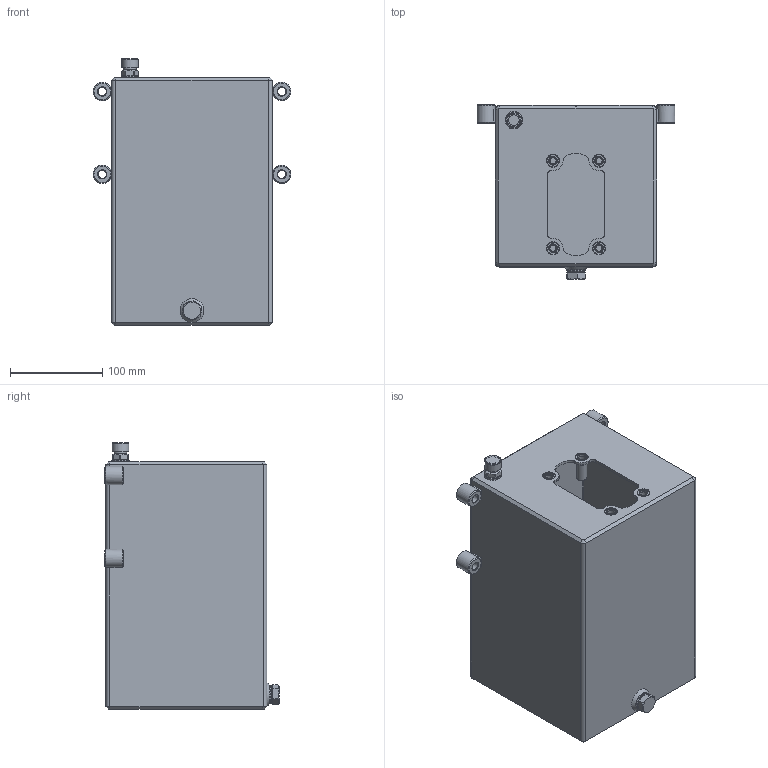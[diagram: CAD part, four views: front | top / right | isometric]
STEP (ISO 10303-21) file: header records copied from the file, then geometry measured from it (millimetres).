
FILE_DESCRIPTION(/* description */ ('Unknown'),/* implementation_level */ '2;1');
FILE_NAME(/* name */ 'SR07FE',/* time_stamp */ '2024-11-28T09:37:22+01:00',/* author */ ('Unknown'),/* organization */ ('Unknown'),/* preprocessor_version */ 'ST-DEVELOPER v19.4',/* originating_system */ 'Solid Edge',/* authorisation */ 'Unknown');
FILE_SCHEMA (('AUTOMOTIVE_DESIGN {1 0 10303 214 3 1 1}'));
Length unit declared in the file: millimetre
Products named in the file (1): SR07FE
Bounding box: 215 x 189.5 x 289.6 mm (x, y, z)
Volume: 732162 mm3; surface area: 488661.4 mm2
Topology: 2 solids, 2 shells, 259 faces, 605 edges, 374 vertices
Faces by surface type: plane 125, cylinder 67, cone 46, torus 19, bspline 2
Full cylindrical faces by diameter (mm): 5.8 x1, 6.647 x8, 9 x4, 9.15 x4, 10.5 x1, 10.88 x4, 10.9 x4, 13.157 x1, 13.2 x4, 13.5 x1, 15 x1, 16.8 x1, 17 x1, 18 x1, 19 x2, 20 x6, 20.1 x1
Entity records: 8353 total; most frequent: DIRECTION 1195, CARTESIAN_POINT 1164, ORIENTED_EDGE 924, AXIS2_PLACEMENT_3D 489, EDGE_CURVE 462, EDGE_LOOP 398, FACE_BOUND 398, VERTEX_POINT 332
